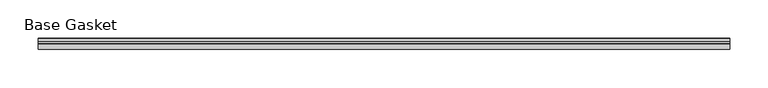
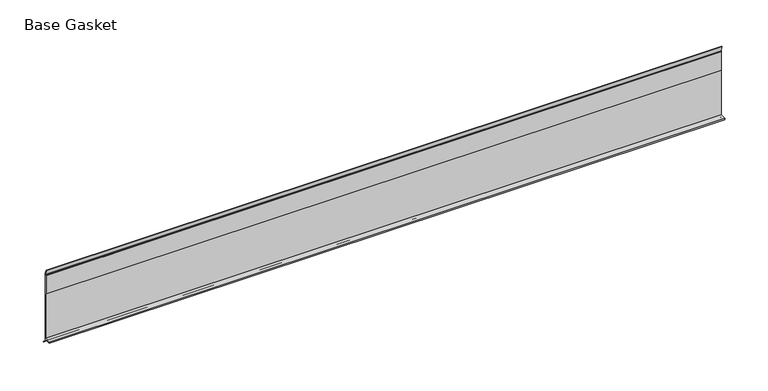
"""IFC4 building model written with IfcOpenShell, lengths in millimetres: furniture geometry, Gasket-Teknion-FHGB-AI_Healthcare-R2021 : Base Gasket."""

from ifc_helpers import new_model, si_unit, frame, origin, place, context, project, spatial, polyline, outline, extrude, source, transform, mapped, element, save


def base_gasket_552193a3(model_context):
    return source(origin(), model_context, "Body", "SweptSolid", [
        extrude(outline(polyline([(3.7283812, 98.4568417), (3.7283812, 4.3498477), (7.4222115, 0.6560174), (7.8482342, 0.0), (6.8281054, 0.3520979), (2.2043812, 4.3498477), (2.1334222, 6.3818476), (-6.2405171, 6.3818476), (-6.2405171, 7.9398773), (2.2043812, 7.9398773), (2.2043812, 71.4693447), (1.4106313, 71.4693447), (1.4106313, 96.8693477), (2.2043812, 96.8693477), (2.2043812, 98.4568417), (0.6755308, 104.4162708), (0.6755308, 105.2002997), (1.1891543, 104.587663), (3.7283812, 98.4568417)])), frame((-1527.8982117, 0.0, 0.0), z_axis=(1.0, 0.0, 0.0), x_axis=(0.0, 1.0, 0.0)), (0.0, 0.0, 1.0), 900.0222326),
    ])


if __name__ == "__main__":
    model = new_model("IFC4")
    model_context = context("Model", 3, world=origin())
    ifc_project = project(units=[si_unit("LENGTHUNIT", "METRE", prefix="MILLI")], contexts=[model_context])
    site = spatial("IfcSite", under=ifc_project)
    building = spatial("IfcBuilding", under=site)
    placement = place(None, origin())
    base_gasket_shape = base_gasket_552193a3(model_context)
    element("IfcFurniture", 1, ObjectType="Gasket-Teknion-FHGB-AI_Healthcare-R2021 : Base Gasket", at=placement, inside=building, context=model_context, shape_type="MappedRepresentation", body=[
        mapped(base_gasket_shape, transform((0.0, 0.0, 0.0), x_axis=(1.0, 0.0, 0.0), y_axis=(0.0, 1.0, 0.0), z_axis=(0.0, 0.0, 1.0))),
    ])
    save(model, "model.ifc")
